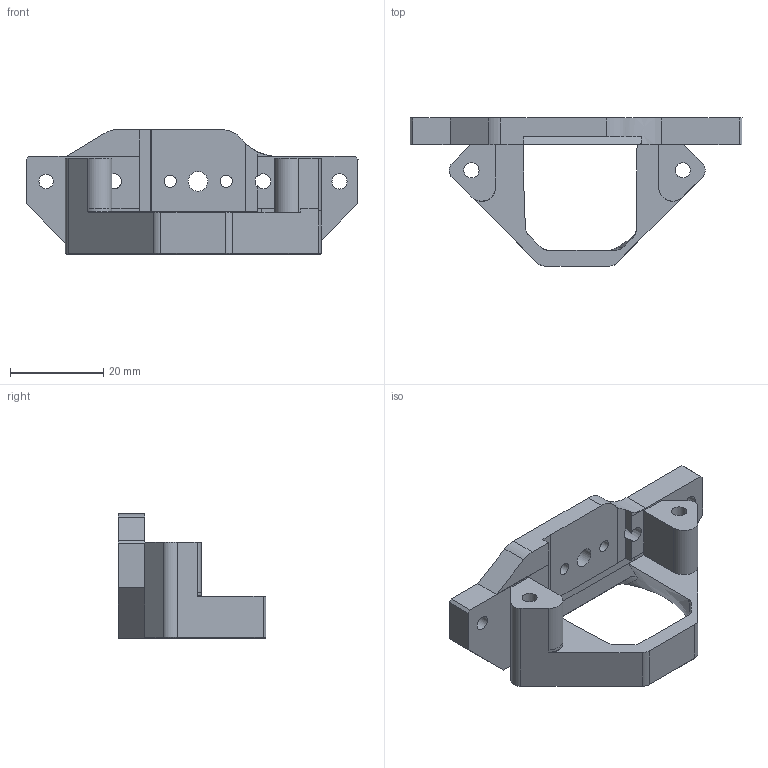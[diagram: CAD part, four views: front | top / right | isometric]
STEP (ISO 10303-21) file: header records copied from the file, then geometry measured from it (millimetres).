
FILE_DESCRIPTION(/* description */ (''),/* implementation_level */ '2;1');
FILE_NAME(/* name */ 'mount-sherpa-micro-r1-mosquito-2.1.step',/* time_stamp */ '2023-01-19T19:17:04+01:00',/* author */ (''),/* organization */ (''),/* preprocessor_version */ 'ST-DEVELOPER v19.2',/* originating_system */ 'Autodesk Translation Framework v11.17.0.187',/* authorisation */ '');
FILE_SCHEMA (('AUTOMOTIVE_DESIGN { 1 0 10303 214 3 1 1 }'));
Length unit declared in the file: millimetre
Products named in the file (1): mount-sherpa-micro-r1-mosquito-2.1
Bounding box: 71.07 x 31.68 x 26.66 mm (x, y, z)
Volume: 12561.6 mm3; surface area: 7389.5 mm2
Topology: 1 solids, 1 shells, 101 faces, 286 edges, 184 vertices
Faces by surface type: plane 54, cylinder 22, bspline 15, cone 10
Full cylindrical faces by diameter (mm): 2.6 x2, 3.1 x1, 3.25 x4, 4.2 x1, 4.6 x2
Entity records: 4150 total; most frequent: CARTESIAN_POINT 1528, ORIENTED_EDGE 572, DIRECTION 482, EDGE_CURVE 286, VERTEX_POINT 184, LINE 174, VECTOR 174, AXIS2_PLACEMENT_3D 154
